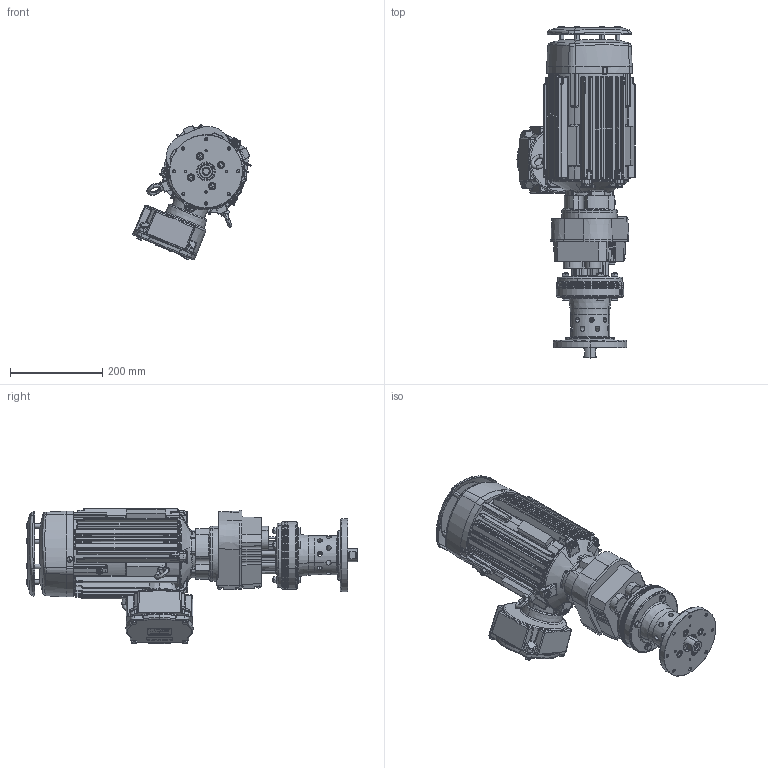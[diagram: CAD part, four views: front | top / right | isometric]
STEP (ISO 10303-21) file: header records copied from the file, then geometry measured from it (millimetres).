
FILE_DESCRIPTION (( 'STEP AP214' ), '1' );
FILE_NAME ('Elektr. Rührwerksantrieb ATEX 19Nm 1,1kW mit Gewindenabe M16_6623+5611.STEP', '2024-04-03T13:45:05', ( '' ), ( '' ), 'SwSTEP 2.0', 'SolidWorks 2022', '' );
FILE_SCHEMA (( 'AUTOMOTIVE_DESIGN' ));
Length unit declared in the file: millimetre
Products named in the file (1): Elektr. Rührwerksantrieb ATEX 19Nm 1,1kW mit Gewindenabe M16_6623+5611
Bounding box: 256.58 x 721.1 x 294.24 mm (x, y, z)
Surface area: 763864.7 mm2 (no closed solid volume)
Topology: 0 solids, 108 shells, 2408 faces, 8031 edges, 5467 vertices
Faces by surface type: cylinder 783, plane 647, bspline 464, cone 241, torus 212, sphere 61
Entity records: 149952 total; most frequent: CARTESIAN_POINT 59373, ORIENTED_EDGE 12757, DIRECTION 12519, EDGE_CURVE 7953, VERTEX_POINT 5442, AXIS2_PLACEMENT_3D 4715, VECTOR 3089, LINE 3089
